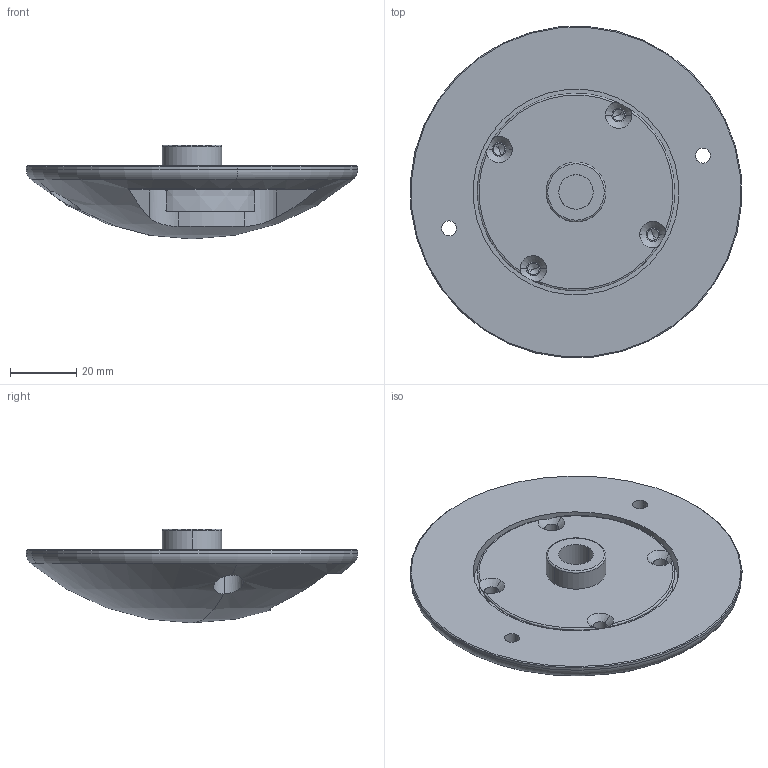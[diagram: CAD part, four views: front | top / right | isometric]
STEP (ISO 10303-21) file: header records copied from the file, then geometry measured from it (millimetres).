
FILE_DESCRIPTION((''),'2;1');
FILE_NAME('C1L_SW0001','2025-06-27T13:10:31',('Piccioli'),(''),'CREO PARAMETRIC BY PTC INC, 2025010','CREO PARAMETRIC BY PTC INC, 2025010','');
FILE_SCHEMA(('CONFIG_CONTROL_DESIGN'));
Length unit declared in the file: millimetre
Products named in the file (1): C1L_SW0001
Bounding box: 99.76 x 99.76 x 28.24 mm (x, y, z)
Surface area: 27838.7 mm2 (no closed solid volume)
Topology: 0 solids, 5 shells, 96 faces, 269 edges, 167 vertices
Faces by surface type: cylinder 38, cone 28, plane 16, torus 12, sphere 2
Entity records: 3520 total; most frequent: CARTESIAN_POINT 980, DIRECTION 578, ORIENTED_EDGE 476, EDGE_CURVE 259, AXIS2_PLACEMENT_3D 247, VERTEX_POINT 167, CIRCLE 151, EDGE_LOOP 115
